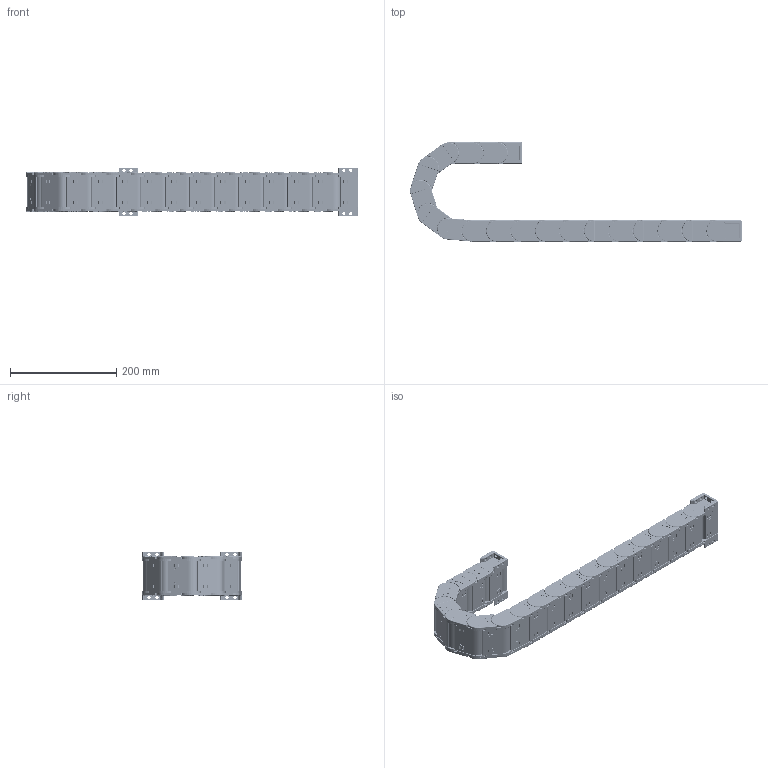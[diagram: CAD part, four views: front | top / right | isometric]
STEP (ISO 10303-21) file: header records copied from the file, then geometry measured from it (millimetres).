
FILE_DESCRIPTION (( 'STEP AP203' ), '1' );
FILE_NAME ('J25F.1.57S猾敕宒--俋耜羲.STEP', '2017-12-16T03:17:20', ( '' ), ( '' ), 'SwSTEP 2.0', 'SolidWorks 2016', '' );
FILE_SCHEMA (( 'CONFIG_CONTROL_DESIGN' ));
Length unit declared in the file: millimetre
Products named in the file (10): N25X75-俋諉芛 - 萵掛; 25-崝Ч翋极1; J25F.1.57S猾敕宒--俋耜羲; 25-崝Ч翋极2; N25-囀猾敕え; N25-俋猾敕え.2; N25X57-增强3D-1 - 副本; 25-崝Ч源諉芛囀; N25X75-囀諉芛 - 萵掛; 25-崝Ч源諉芛俋
Assembly tree (31 placements, depth 3):
  J25F.1.57S猾敕宒--俋耜羲
    N25X57-增强3D-1 - 副本  x17
      25-崝Ч翋极1
      25-崝Ч翋极2
      N25-囀猾敕え
      N25-俋猾敕え.2
    N25X75-囀諉芛 - 萵掛
      25-崝Ч源諉芛囀  x2
      N25-囀猾敕え  x2
    N25X75-俋諉芛 - 萵掛
      25-崝Ч源諉芛俋  x2
      N25-囀猾敕え  x2
Bounding box: 623.94 x 186.39 x 91 mm (x, y, z)
Volume: 873466.1 mm3; surface area: 638411.8 mm2
Topology: 76 solids, 76 shells, 19781 faces, 53747 edges, 34150 vertices
Faces by surface type: plane 8811, cylinder 5690, bspline 3842, torus 1360, sphere 78
Entity records: 49575 total; most frequent: CARTESIAN_POINT 17331, ORIENTED_EDGE 6766, DIRECTION 5911, EDGE_CURVE 3383, VERTEX_POINT 2166, AXIS2_PLACEMENT_3D 1973, LINE 1965, VECTOR 1965
